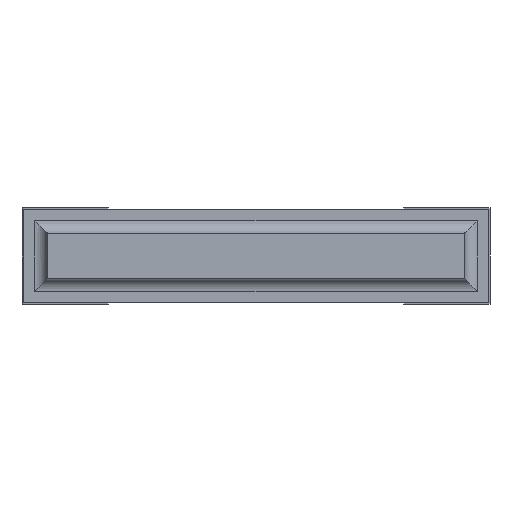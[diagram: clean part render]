
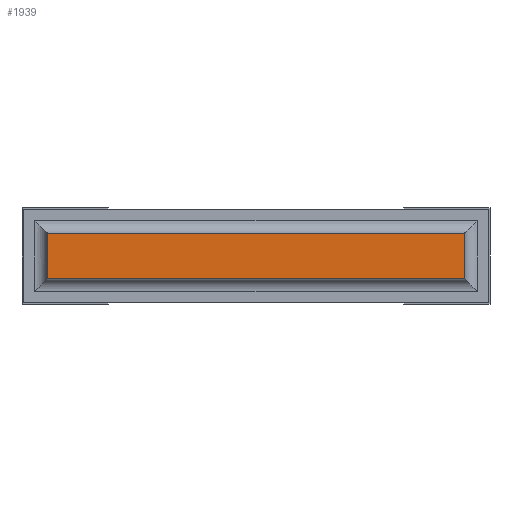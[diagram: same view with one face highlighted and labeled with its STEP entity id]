
A CAD part, front view. The second image highlights one B-rep face of the part: STEP entity #1939.
In plain terms, the highlighted planar face has unit normal (0, -1, 0).
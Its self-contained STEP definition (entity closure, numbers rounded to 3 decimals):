
#89=FACE_OUTER_BOUND('',#209,.T.);
#209=EDGE_LOOP('',(#1315,#1316,#1317,#1318));
#329=LINE('',#2771,#581);
#338=LINE('',#2799,#590);
#345=LINE('',#2816,#597);
#346=LINE('',#2818,#598);
#581=VECTOR('',#2227,10.);
#590=VECTOR('',#2252,10.);
#597=VECTOR('',#2269,10.);
#598=VECTOR('',#2272,10.);
#833=VERTEX_POINT('',#2768);
#834=VERTEX_POINT('',#2770);
#845=VERTEX_POINT('',#2798);
#850=VERTEX_POINT('',#2814);
#1009=EDGE_CURVE('',#834,#833,#329,.T.);
#1022=EDGE_CURVE('',#834,#845,#338,.T.);
#1031=EDGE_CURVE('',#850,#833,#345,.T.);
#1032=EDGE_CURVE('',#845,#850,#346,.T.);
#1315=ORIENTED_EDGE('',*,*,#1031,.F.);
#1316=ORIENTED_EDGE('',*,*,#1032,.F.);
#1317=ORIENTED_EDGE('',*,*,#1022,.F.);
#1318=ORIENTED_EDGE('',*,*,#1009,.T.);
#1839=PLANE('',#2091);
#1939=ADVANCED_FACE('',(#89),#1839,.T.);
#2091=AXIS2_PLACEMENT_3D('',#2817,#2270,#2271);
#2227=DIRECTION('',(0.,0.,-1.));
#2252=DIRECTION('',(1.,0.,0.));
#2269=DIRECTION('',(-1.,0.,0.));
#2270=DIRECTION('center_axis',(0.,-1.,0.));
#2271=DIRECTION('ref_axis',(0.,0.,-1.));
#2272=DIRECTION('',(0.,0.,-1.));
#2768=CARTESIAN_POINT('',(0.1,0.,0.16));
#2770=CARTESIAN_POINT('',(0.1,0.,0.34));
#2771=CARTESIAN_POINT('',(0.1,0.,0.34));
#2798=CARTESIAN_POINT('',(1.75,0.,0.34));
#2799=CARTESIAN_POINT('',(0.1,0.,0.34));
#2814=CARTESIAN_POINT('',(1.75,0.,0.16));
#2816=CARTESIAN_POINT('',(1.75,0.,0.16));
#2817=CARTESIAN_POINT('Origin',(1.75,0.,0.25));
#2818=CARTESIAN_POINT('',(1.75,0.,0.34));
